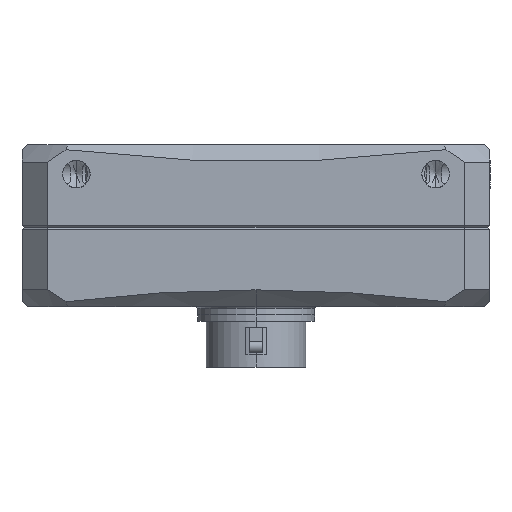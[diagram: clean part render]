
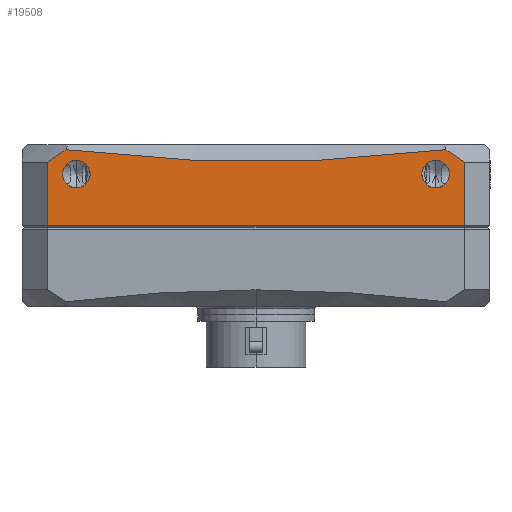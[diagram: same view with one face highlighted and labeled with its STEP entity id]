
A CAD part, left-side view. The second image highlights one B-rep face of the part: STEP entity #19508.
In plain terms, the highlighted planar face has unit normal (-1, 0, 0).
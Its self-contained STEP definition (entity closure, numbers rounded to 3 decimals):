
#256 = LINE ( 'NONE', #35111, #33734 ) ;
#863 = CARTESIAN_POINT ( 'NONE',  ( -28., 22.728, 9.264 ) ) ;
#1130 = EDGE_CURVE ( 'NONE', #14126, #16238, #31798, .T. ) ;
#1423 = DIRECTION ( 'NONE',  ( -1., 0., 0. ) ) ;
#1787 = DIRECTION ( 'NONE',  ( -1., 0., 0. ) ) ;
#2198 = ORIENTED_EDGE ( 'NONE', *, *, #23247, .T. ) ;
#2347 = DIRECTION ( 'NONE',  ( -1., 0., 0. ) ) ;
#2604 = VERTEX_POINT ( 'NONE', #27150 ) ;
#2862 = FACE_BOUND ( 'NONE', #31504, .T. ) ;
#3042 = PLANE ( 'NONE',  #24244 ) ;
#3450 = VERTEX_POINT ( 'NONE', #36363 ) ;
#3523 = CARTESIAN_POINT ( 'NONE',  ( -28., 21.5, 6.35 ) ) ;
#3529 = DIRECTION ( 'NONE',  ( 0., 0., -1. ) ) ;
#4633 = CARTESIAN_POINT ( 'NONE',  ( -28., 23.491, 8.782 ) ) ;
#4769 = CARTESIAN_POINT ( 'NONE',  ( -28., -24.249, 8.29 ) ) ;
#4968 = ORIENTED_EDGE ( 'NONE', *, *, #12928, .F. ) ;
#5471 = ORIENTED_EDGE ( 'NONE', *, *, #34549, .F. ) ;
#5636 = CARTESIAN_POINT ( 'NONE',  ( -28., -7.526, 7.966 ) ) ;
#5733 = ORIENTED_EDGE ( 'NONE', *, *, #1130, .F. ) ;
#5983 = EDGE_LOOP ( 'NONE', ( #5471, #5733 ) ) ;
#6040 = ORIENTED_EDGE ( 'NONE', *, *, #31185, .T. ) ;
#6525 = ORIENTED_EDGE ( 'NONE', *, *, #9151, .T. ) ;
#6880 = B_SPLINE_CURVE_WITH_KNOTS ( 'NONE', 3,
 ( #24631, #30710, #4633, #15978 ),
 .UNSPECIFIED., .F., .F.,
 ( 4, 4 ),
 ( 0.039, 0.041 ),
 .UNSPECIFIED. ) ;
#7960 = ORIENTED_EDGE ( 'NONE', *, *, #18967, .F. ) ;
#8133 = AXIS2_PLACEMENT_3D ( 'NONE', #11721, #2347, #28977 ) ;
#8182 = DIRECTION ( 'NONE',  ( -1., 0., 0. ) ) ;
#8634 = EDGE_LOOP ( 'NONE', ( #6040, #6525, #34491, #10741, #2198, #7960 ) ) ;
#9151 = EDGE_CURVE ( 'NONE', #2604, #15645, #256, .T. ) ;
#9173 = CARTESIAN_POINT ( 'NONE',  ( -28., -28., 9.85 ) ) ;
#10262 = VECTOR ( 'NONE', #15882, 1000. ) ;
#10741 = ORIENTED_EDGE ( 'NONE', *, *, #10793, .F. ) ;
#10793 = EDGE_CURVE ( 'NONE', #19329, #3450, #37448, .T. ) ;
#10921 = CARTESIAN_POINT ( 'NONE',  ( -28., -21.5, 4.7 ) ) ;
#11156 = CARTESIAN_POINT ( 'NONE',  ( -28., -21.5, 6.35 ) ) ;
#11678 = DIRECTION ( 'NONE',  ( 1., 0., 0. ) ) ;
#11721 = CARTESIAN_POINT ( 'NONE',  ( -28., 21.5, 6.35 ) ) ;
#11872 = FACE_OUTER_BOUND ( 'NONE', #8634, .T. ) ;
#11950 = DIRECTION ( 'NONE',  ( 0., -1., 0. ) ) ;
#11993 = LINE ( 'NONE', #15064, #20097 ) ;
#12246 = FACE_BOUND ( 'NONE', #5983, .T. ) ;
#12326 = VERTEX_POINT ( 'NONE', #18164 ) ;
#12423 = LINE ( 'NONE', #15700, #10262 ) ;
#12836 = AXIS2_PLACEMENT_3D ( 'NONE', #3523, #1423, #13109 ) ;
#12928 = EDGE_CURVE ( 'NONE', #18214, #12326, #34427, .T. ) ;
#13109 = DIRECTION ( 'NONE',  ( 0., 0., 1. ) ) ;
#14126 = VERTEX_POINT ( 'NONE', #10921 ) ;
#15064 = CARTESIAN_POINT ( 'NONE',  ( -28., 25., 9.85 ) ) ;
#15645 = VERTEX_POINT ( 'NONE', #29648 ) ;
#15700 = CARTESIAN_POINT ( 'NONE',  ( -28., -25., 9.85 ) ) ;
#15882 = DIRECTION ( 'NONE',  ( 0., 0., 1. ) ) ;
#15978 = CARTESIAN_POINT ( 'NONE',  ( -28., 22.728, 9.264 ) ) ;
#16112 = VERTEX_POINT ( 'NONE', #36068 ) ;
#16238 = VERTEX_POINT ( 'NONE', #24840 ) ;
#18138 = CARTESIAN_POINT ( 'NONE',  ( -28., -20.835, 9.029 ) ) ;
#18164 = CARTESIAN_POINT ( 'NONE',  ( -28., 21.5, 4.7 ) ) ;
#18214 = VERTEX_POINT ( 'NONE', #37445 ) ;
#18967 = EDGE_CURVE ( 'NONE', #16112, #28801, #6880, .T. ) ;
#19329 = VERTEX_POINT ( 'NONE', #24201 ) ;
#19508 = ADVANCED_FACE ( 'NONE', ( #11872, #2862, #12246 ), #3042, .F. ) ;
#19930 = DIRECTION ( 'NONE',  ( 0., 0., 1. ) ) ;
#20097 = VECTOR ( 'NONE', #3529, 1000. ) ;
#20191 = AXIS2_PLACEMENT_3D ( 'NONE', #11156, #1787, #31300 ) ;
#20752 = EDGE_CURVE ( 'NONE', #15645, #3450, #12423, .T. ) ;
#21398 = CARTESIAN_POINT ( 'NONE',  ( -28., 15.192, 8.33 ) ) ;
#21679 = B_SPLINE_CURVE_WITH_KNOTS ( 'NONE', 3,
 ( #35509, #18138, #37605, #23144, #31922, #5636, #29050, #37787, #21398, #863 ),
 .UNSPECIFIED., .F., .F.,
 ( 4, 2, 2, 2, 4 ),
 ( 0.069, 0.075, 0.081, 0.092, 0.115 ),
 .UNSPECIFIED. ) ;
#23144 = CARTESIAN_POINT ( 'NONE',  ( -28., -15.127, 8.468 ) ) ;
#23247 = EDGE_CURVE ( 'NONE', #19329, #28801, #21679, .T. ) ;
#23258 = EDGE_CURVE ( 'NONE', #12326, #18214, #26271, .T. ) ;
#24201 = CARTESIAN_POINT ( 'NONE',  ( -28., -22.728, 9.264 ) ) ;
#24244 = AXIS2_PLACEMENT_3D ( 'NONE', #9173, #11678, #29120 ) ;
#24457 = CARTESIAN_POINT ( 'NONE',  ( -28., 22.728, 9.264 ) ) ;
#24631 = CARTESIAN_POINT ( 'NONE',  ( -28., 25., 7.79 ) ) ;
#24840 = CARTESIAN_POINT ( 'NONE',  ( -28., -21.5, 8. ) ) ;
#26271 = CIRCLE ( 'NONE', #12836, 1.65 ) ;
#27150 = CARTESIAN_POINT ( 'NONE',  ( -28., 25., 0.25 ) ) ;
#28152 = CARTESIAN_POINT ( 'NONE',  ( -28., -25., 7.79 ) ) ;
#28801 = VERTEX_POINT ( 'NONE', #24457 ) ;
#28977 = DIRECTION ( 'NONE',  ( 0., 0., 1. ) ) ;
#29050 = CARTESIAN_POINT ( 'NONE',  ( -28., -3.732, 7.849 ) ) ;
#29120 = DIRECTION ( 'NONE',  ( 0., 0., -1. ) ) ;
#29648 = CARTESIAN_POINT ( 'NONE',  ( -28., -25., 0.25 ) ) ;
#30710 = CARTESIAN_POINT ( 'NONE',  ( -28., 24.249, 8.29 ) ) ;
#31185 = EDGE_CURVE ( 'NONE', #16112, #2604, #11993, .T. ) ;
#31300 = DIRECTION ( 'NONE',  ( 0., 0., 1. ) ) ;
#31504 = EDGE_LOOP ( 'NONE', ( #4968, #34385 ) ) ;
#31798 = CIRCLE ( 'NONE', #34200, 1.65 ) ;
#31922 = CARTESIAN_POINT ( 'NONE',  ( -28., -13.226, 8.32 ) ) ;
#33705 = CARTESIAN_POINT ( 'NONE',  ( -28., -22.728, 9.264 ) ) ;
#33734 = VECTOR ( 'NONE', #11950, 1000. ) ;
#34200 = AXIS2_PLACEMENT_3D ( 'NONE', #34408, #8182, #19930 ) ;
#34385 = ORIENTED_EDGE ( 'NONE', *, *, #23258, .F. ) ;
#34408 = CARTESIAN_POINT ( 'NONE',  ( -28., -21.5, 6.35 ) ) ;
#34427 = CIRCLE ( 'NONE', #8133, 1.65 ) ;
#34491 = ORIENTED_EDGE ( 'NONE', *, *, #20752, .T. ) ;
#34549 = EDGE_CURVE ( 'NONE', #16238, #14126, #36591, .T. ) ;
#35111 = CARTESIAN_POINT ( 'NONE',  ( -28., -28., 0.25 ) ) ;
#35509 = CARTESIAN_POINT ( 'NONE',  ( -28., -22.728, 9.264 ) ) ;
#36068 = CARTESIAN_POINT ( 'NONE',  ( -28., 25., 7.79 ) ) ;
#36363 = CARTESIAN_POINT ( 'NONE',  ( -28., -25., 7.79 ) ) ;
#36591 = CIRCLE ( 'NONE', #20191, 1.65 ) ;
#37098 = CARTESIAN_POINT ( 'NONE',  ( -28., -23.492, 8.782 ) ) ;
#37445 = CARTESIAN_POINT ( 'NONE',  ( -28., 21.5, 8. ) ) ;
#37448 = B_SPLINE_CURVE_WITH_KNOTS ( 'NONE', 3,
 ( #33705, #37098, #4769, #28152 ),
 .UNSPECIFIED., .F., .F.,
 ( 4, 4 ),
 ( 0.09, 0.093 ),
 .UNSPECIFIED. ) ;
#37605 = CARTESIAN_POINT ( 'NONE',  ( -28., -18.932, 8.822 ) ) ;
#37787 = CARTESIAN_POINT ( 'NONE',  ( -28., 7.635, 7.852 ) ) ;
